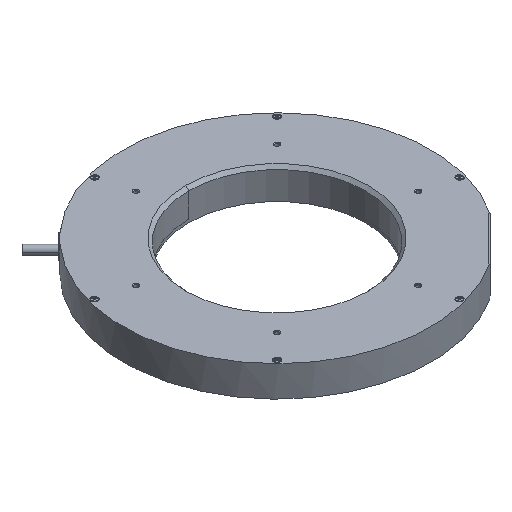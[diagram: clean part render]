
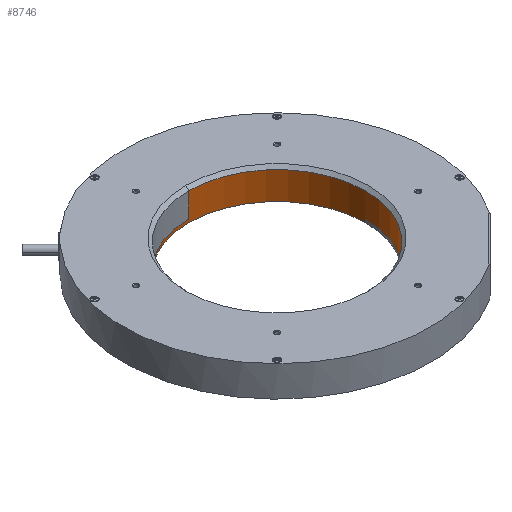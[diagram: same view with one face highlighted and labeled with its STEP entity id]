
A CAD part, isometric view. The second image highlights one B-rep face of the part: STEP entity #8746.
In plain terms, the highlighted cylindrical face has radius 57.5 mm (diameter 115 mm), a partial arc.
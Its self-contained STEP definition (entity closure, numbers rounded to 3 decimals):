
#383=CARTESIAN_POINT('',(0.,0.,-18.));
#384=DIRECTION('',(0.,0.,1.));
#385=DIRECTION('',(1.,0.,0.));
#386=AXIS2_PLACEMENT_3D('',#383,#384,#385);
#1987=DIRECTION('',(0.,0.,1.));
#1988=VECTOR('',#1987,2.);
#1989=CARTESIAN_POINT('',(57.5,0.,-18.));
#1990=LINE('',#1989,#1988);
#1991=DIRECTION('',(0.,0.,-1.));
#1992=VECTOR('',#1991,2.);
#1993=CARTESIAN_POINT('',(-57.5,0.,-16.));
#1994=LINE('',#1993,#1992);
#1995=CARTESIAN_POINT('',(0.,0.,-16.));
#1996=DIRECTION('',(0.,0.,1.));
#1997=DIRECTION('',(0.,1.,0.));
#1998=AXIS2_PLACEMENT_3D('',#1995,#1996,#1997);
#2000=DIRECTION('',(0.,0.,1.));
#2001=VECTOR('',#2000,16.);
#2002=CARTESIAN_POINT('',(0.,57.5,-16.));
#2003=LINE('',#2002,#2001);
#2004=DIRECTION('',(0.,0.,-1.));
#2005=VECTOR('',#2004,16.);
#2006=CARTESIAN_POINT('',(0.,-57.5,0.));
#2007=LINE('',#2006,#2005);
#2008=CARTESIAN_POINT('',(0.,0.,-16.));
#2009=DIRECTION('',(0.,0.,1.));
#2010=DIRECTION('',(0.,-1.,0.));
#2011=AXIS2_PLACEMENT_3D('',#2008,#2009,#2010);
#2026=CARTESIAN_POINT('',(0.,0.,0.));
#2027=DIRECTION('',(0.,0.,-1.));
#2028=DIRECTION('',(0.,1.,0.));
#2029=AXIS2_PLACEMENT_3D('',#2026,#2027,#2028);
#4640=CARTESIAN_POINT('',(0.,57.5,0.));
#4641=CARTESIAN_POINT('',(0.,-57.5,0.));
#4642=VERTEX_POINT('',#4640);
#4643=VERTEX_POINT('',#4641);
#4672=CARTESIAN_POINT('',(-57.5,0.,-18.));
#4673=CARTESIAN_POINT('',(57.5,0.,-18.));
#4674=VERTEX_POINT('',#4672);
#4675=VERTEX_POINT('',#4673);
#5668=CARTESIAN_POINT('',(0.,57.5,-16.));
#5669=CARTESIAN_POINT('',(-57.5,0.,-16.));
#5670=VERTEX_POINT('',#5668);
#5671=VERTEX_POINT('',#5669);
#5672=CARTESIAN_POINT('',(0.,-57.5,-16.));
#5673=CARTESIAN_POINT('',(57.5,0.,-16.));
#5674=VERTEX_POINT('',#5672);
#5675=VERTEX_POINT('',#5673);
#8724=CARTESIAN_POINT('',(0.,0.,2.585));
#8725=DIRECTION('',(0.,0.,-1.));
#8726=DIRECTION('',(0.,-1.,0.));
#8727=AXIS2_PLACEMENT_3D('',#8724,#8725,#8726);
#8728=CYLINDRICAL_SURFACE('',#8727,57.5);
#8730=ORIENTED_EDGE('',*,*,#8729,.T.);
#8732=ORIENTED_EDGE('',*,*,#8731,.F.);
#8733=ORIENTED_EDGE('',*,*,#6273,.T.);
#8735=ORIENTED_EDGE('',*,*,#8734,.F.);
#8737=ORIENTED_EDGE('',*,*,#8736,.F.);
#8739=ORIENTED_EDGE('',*,*,#8738,.T.);
#8741=ORIENTED_EDGE('',*,*,#8740,.T.);
#8743=ORIENTED_EDGE('',*,*,#8742,.T.);
#8744=EDGE_LOOP('',(#8730,#8732,#8733,#8735,#8737,#8739,#8741,#8743));
#8745=FACE_OUTER_BOUND('',#8744,.F.);
#8746=ADVANCED_FACE('',(#8745),#8728,.F.);
#387=CIRCLE('',#386,57.5);
#1999=CIRCLE('',#1998,57.5);
#2012=CIRCLE('',#2011,57.5);
#2030=CIRCLE('',#2029,57.5);
#6273=EDGE_CURVE('',#4675,#4674,#387,.T.);
#8729=EDGE_CURVE('',#5674,#5675,#2012,.T.);
#8731=EDGE_CURVE('',#4675,#5675,#1990,.T.);
#8734=EDGE_CURVE('',#5671,#4674,#1994,.T.);
#8736=EDGE_CURVE('',#5670,#5671,#1999,.T.);
#8738=EDGE_CURVE('',#5670,#4642,#2003,.T.);
#8740=EDGE_CURVE('',#4642,#4643,#2030,.T.);
#8742=EDGE_CURVE('',#4643,#5674,#2007,.T.);
